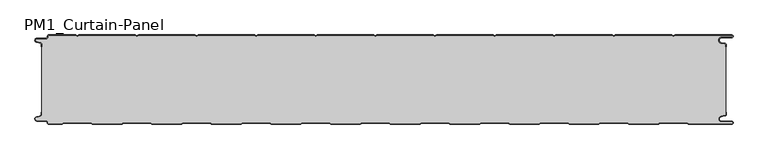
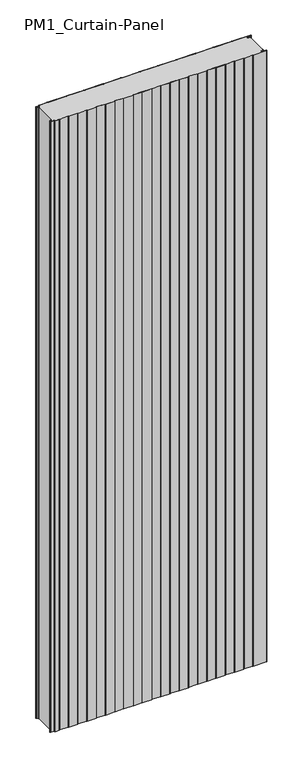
"""IFC4 building model written with IfcOpenShell, lengths in millimetres: plate geometry, PM1_Curtain-Panel : ACH_PM1_Stone-wool-Panel_150M."""

from ifc_helpers import new_model, si_unit, point, frame_2d, origin, origin_with_axes, place, context, project, spatial, polyline, circle_curve, trimmed, segment, composite_curve, outline, extrude, source, transform, mapped, element, save


def pm1_curtain_panel_94fae08d(model_context):
    return source(origin(), model_context, "Body", "SweptSolid", [
        extrude(outline(composite_curve([segment(trimmed(circle_curve(frame_2d((-577.0, -15.878557)), 2.0), [point((-575.0, -15.878557))], [point((-576.5500978, -13.9298169))], True, "CARTESIAN"), True, "CONTINUOUS"), segment(polyline([(-576.5500978, -13.9298169), (-582.7098239, -12.507732)]), True, "CONTINUOUS"), segment(trimmed(circle_curve(frame_2d((-581.9, -9.0)), 3.6), [point((-582.7098239, -12.507732))], [point((-581.9, -5.4))], False, "CARTESIAN"), True, "CONTINUOUS"), segment(polyline([(-581.9, -5.4), (-566.4, -5.4)]), True, "CONTINUOUS"), segment(trimmed(circle_curve(frame_2d((-566.4, -3.4)), 2.0), [point((-566.4, -5.4))], [point((-564.4, -3.4))], True, "CARTESIAN"), True, "CONTINUOUS"), segment(polyline([(-564.4, -3.4), (-564.4, -2.0)]), True, "CONTINUOUS"), segment(trimmed(circle_curve(frame_2d((-562.4, -2.0)), 2.0), [point((-564.4, -2.0))], [point((-562.4, 0.0))], False, "CARTESIAN"), True, "CONTINUOUS"), segment(polyline([(-562.4, 0.0), (-517.0999995, 0.0), (-514.4, -1.5588455), (-511.7000005, 0.0), (-417.0999995, 0.0), (-414.4, -1.5588455), (-411.7000005, 0.0), (-317.0999995, 0.0), (-314.4, -1.5588455), (-311.7000005, 0.0), (-217.0999995, 0.0), (-214.4, -1.5588455), (-211.7000005, 0.0), (-117.0999995, 0.0), (-114.4, -1.5588455), (-111.7000005, 0.0), (-17.0999995, 0.0), (-14.4, -1.5588455), (-11.7000005, 0.0), (82.9000005, 0.0), (85.6, -1.5588455), (88.2999995, 0.0), (182.9000005, 0.0), (185.6, -1.5588455), (188.2999995, 0.0), (282.9000005, 0.0), (285.6, -1.5588455), (288.2999995, 0.0), (382.9000005, 0.0), (385.6, -1.5588455), (388.2999995, 0.0), (482.9000005, 0.0), (485.6, -1.5588455), (488.2999995, 0.0), (583.1, 0.0)]), True, "CONTINUOUS"), segment(trimmed(circle_curve(frame_2d((583.1, -2.5)), 2.5), [point((583.1, 0.0))], [point((583.1, -5.0))], False, "CARTESIAN"), True, "CONTINUOUS"), segment(polyline([(583.1, -5.0), (566.1, -5.0)]), True, "CONTINUOUS"), segment(trimmed(circle_curve(frame_2d((566.1, -9.0)), 4.0), [point((566.1, -5.0))], [point((565.405407, -12.939231))], True, "CARTESIAN"), True, "CONTINUOUS"), segment(polyline([(565.405407, -12.939231), (571.8514855, -14.0758491)]), True, "CONTINUOUS"), segment(trimmed(circle_curve(frame_2d((571.4, -16.6363492)), 2.6), [point((571.8514855, -14.0758491))], [point((574.0, -16.6363492))], False, "CARTESIAN"), True, "CONTINUOUS"), segment(polyline([(574.0, -16.6363492), (574.0, -20.0), (573.2, -20.0), (573.2, -16.6363492)]), True, "CONTINUOUS"), segment(trimmed(circle_curve(frame_2d((571.4, -16.6363492)), 1.8), [point((573.2, -16.6363492))], [point((571.7125669, -14.8636953))], True, "CARTESIAN"), True, "CONTINUOUS"), segment(polyline([(571.7125669, -14.8636953), (565.2664884, -13.7270772)]), True, "CONTINUOUS"), segment(trimmed(circle_curve(frame_2d((566.1, -9.0)), 4.8), [point((565.2664884, -13.7270772))], [point((566.1, -4.2))], False, "CARTESIAN"), True, "CONTINUOUS"), segment(polyline([(566.1, -4.2), (583.1, -4.2)]), True, "CONTINUOUS"), segment(trimmed(circle_curve(frame_2d((583.1, -2.5)), 1.7), [point((583.1, -4.2))], [point((583.1, -0.8))], True, "CARTESIAN"), True, "CONTINUOUS"), segment(polyline([(583.1, -0.8), (488.5143588, -0.8), (485.6, -2.482606), (482.6856412, -0.8), (388.5143588, -0.8), (385.6, -2.482606), (382.6856412, -0.8), (288.5143588, -0.8), (285.6, -2.482606), (282.6856412, -0.8), (188.5143588, -0.8), (185.6, -2.482606), (182.6856412, -0.8), (88.5143588, -0.8), (85.6, -2.482606), (82.6856412, -0.8), (-11.4856412, -0.8), (-14.4, -2.482606), (-17.3143588, -0.8), (-111.4856412, -0.8), (-114.4, -2.482606), (-117.3143588, -0.8), (-211.4856412, -0.8), (-214.4, -2.482606), (-217.3143588, -0.8), (-311.4856412, -0.8), (-314.4, -2.482606), (-317.3143588, -0.8), (-411.4856412, -0.8), (-414.4, -2.482606), (-417.3143588, -0.8), (-511.4856412, -0.8), (-514.4, -2.482606), (-517.3143588, -0.8), (-562.4, -0.8)]), True, "CONTINUOUS"), segment(trimmed(circle_curve(frame_2d((-562.4, -2.0)), 1.2), [point((-562.4, -0.8))], [point((-563.6, -2.0))], True, "CARTESIAN"), True, "CONTINUOUS"), segment(polyline([(-563.6, -2.0), (-563.6, -3.4)]), True, "CONTINUOUS"), segment(trimmed(circle_curve(frame_2d((-566.4, -3.4)), 2.8), [point((-563.6, -3.4))], [point((-566.4, -6.2))], False, "CARTESIAN"), True, "CONTINUOUS"), segment(polyline([(-566.4, -6.2), (-581.9, -6.2)]), True, "CONTINUOUS"), segment(trimmed(circle_curve(frame_2d((-581.9, -9.0)), 2.8), [point((-581.9, -6.2))], [point((-582.529863, -11.7282362))], True, "CARTESIAN"), True, "CONTINUOUS"), segment(polyline([(-582.529863, -11.7282362), (-576.370137, -13.150321)]), True, "CONTINUOUS"), segment(trimmed(circle_curve(frame_2d((-577.0, -15.878557)), 2.8), [point((-576.370137, -13.150321))], [point((-574.2, -15.878557))], False, "CARTESIAN"), True, "CONTINUOUS"), segment(polyline([(-574.2, -15.878557), (-574.2, -20.0), (-575.0, -20.0), (-575.0, -15.878557)]), True, "CONTINUOUS")], self_intersect=False)), origin_with_axes(), (0.0, 0.0, 1.0), 3500.0),
        extrude(outline(composite_curve([segment(polyline([(-574.2, -134.121443), (-574.2, -15.8785573)]), True, "CONTINUOUS"), segment(trimmed(circle_curve(frame_2d((-577.0, -15.8785573)), 2.8), [point((-574.2, -15.8785573))], [point((-576.370137, -13.1503212))], True, "CARTESIAN"), True, "CONTINUOUS"), segment(polyline([(-576.370137, -13.1503212), (-582.5298631, -11.7282362)]), True, "CONTINUOUS"), segment(trimmed(circle_curve(frame_2d((-581.9, -9.0)), 2.8), [point((-582.5298631, -11.7282362))], [point((-581.9, -6.2))], False, "CARTESIAN"), True, "CONTINUOUS"), segment(polyline([(-581.9, -6.2), (-566.4000001, -6.2)]), True, "CONTINUOUS"), segment(trimmed(circle_curve(frame_2d((-566.4000001, -3.4)), 2.8), [point((-566.4000001, -6.2))], [point((-563.6000001, -3.4))], True, "CARTESIAN"), True, "CONTINUOUS"), segment(polyline([(-563.6000001, -3.4), (-563.6000001, -2.0)]), True, "CONTINUOUS"), segment(trimmed(circle_curve(frame_2d((-562.4000001, -2.0)), 1.2), [point((-563.6000001, -2.0))], [point((-562.4000001, -0.8))], False, "CARTESIAN"), True, "CONTINUOUS"), segment(polyline([(-562.4000001, -0.8), (-517.3143589, -0.8), (-514.4000001, -2.482606), (-511.4856412, -0.8), (-417.3143589, -0.8), (-414.4000001, -2.482606), (-411.4856412, -0.8), (-317.3143589, -0.8), (-314.4000001, -2.482606), (-311.4856412, -0.8), (-217.3143589, -0.8), (-214.4000001, -2.482606), (-211.4856412, -0.8), (-117.3143589, -0.8), (-114.4000001, -2.482606), (-111.4856412, -0.8), (-17.3143589, -0.8), (-14.4000001, -2.482606), (-11.4856412, -0.8), (82.6856411, -0.8), (85.5999999, -2.482606), (88.5143588, -0.8), (182.6856411, -0.8), (185.5999999, -2.482606), (188.5143588, -0.8), (282.6856411, -0.8), (285.5999999, -2.482606), (288.5143588, -0.8), (382.6856411, -0.8), (385.5999999, -2.482606), (388.5143588, -0.8), (482.6856411, -0.8), (485.6, -2.482606), (488.5143588, -0.8), (583.1, -0.8)]), True, "CONTINUOUS"), segment(trimmed(circle_curve(frame_2d((583.1, -2.5)), 1.7), [point((583.1, -0.8))], [point((583.1, -4.2))], False, "CARTESIAN"), True, "CONTINUOUS"), segment(polyline([(583.1, -4.2), (566.1, -4.2)]), True, "CONTINUOUS"), segment(trimmed(circle_curve(frame_2d((566.1, -9.0)), 4.8), [point((566.1, -4.2))], [point((565.2664883, -13.7270771))], True, "CARTESIAN"), True, "CONTINUOUS"), segment(polyline([(565.2664883, -13.7270771), (571.7125668, -14.8636953)]), True, "CONTINUOUS"), segment(trimmed(circle_curve(frame_2d((571.4, -16.6363492)), 1.8), [point((571.7125668, -14.8636953))], [point((573.2, -16.6363492))], False, "CARTESIAN"), True, "CONTINUOUS"), segment(polyline([(573.2, -16.6363492), (573.2, -133.363652)]), True, "CONTINUOUS"), segment(trimmed(circle_curve(frame_2d((571.4, -133.363652)), 1.8), [point((573.2, -133.363652))], [point((571.7125666, -135.1363059))], False, "CARTESIAN"), True, "CONTINUOUS"), segment(polyline([(571.7125666, -135.1363059), (565.266489, -136.272923)]), True, "CONTINUOUS"), segment(trimmed(circle_curve(frame_2d((566.1, -141.0000002)), 4.7999999), [point((565.266489, -136.272923))], [point((566.1, -145.8000001))], True, "CARTESIAN"), True, "CONTINUOUS"), segment(polyline([(566.1, -145.8000001), (583.1, -145.8000001)]), True, "CONTINUOUS"), segment(trimmed(circle_curve(frame_2d((583.1, -147.5)), 1.7), [point((583.1, -145.8000001))], [point((583.1, -149.2))], False, "CARTESIAN"), True, "CONTINUOUS"), segment(polyline([(583.1, -149.2), (510.8105122, -149.2), (508.2124346, -147.7), (462.9837184, -147.7), (460.3856408, -149.2), (410.8105122, -149.2), (408.2124346, -147.7), (362.9837184, -147.7), (360.3856408, -149.2), (310.8105122, -149.2), (308.2124346, -147.7), (262.9837184, -147.7), (260.3856408, -149.2), (210.8105122, -149.2), (208.2124346, -147.7), (162.9837184, -147.7), (160.3856408, -149.2), (110.8105122, -149.2), (108.2124346, -147.7), (62.9837184, -147.7), (60.3856408, -149.2), (10.8105122, -149.2), (8.2124346, -147.7), (-37.0162816, -147.7), (-39.6143592, -149.2), (-89.1894878, -149.2), (-91.7875654, -147.7), (-137.0162816, -147.7), (-139.6143592, -149.2), (-189.1894878, -149.2), (-191.7875654, -147.7), (-237.0162816, -147.7), (-239.6143592, -149.2), (-289.1894878, -149.2), (-291.7875654, -147.7), (-337.0162816, -147.7), (-339.6143592, -149.2), (-389.1894878, -149.2), (-391.7875654, -147.7), (-437.0162816, -147.7), (-439.6143592, -149.2), (-489.1894878, -149.2), (-491.7875654, -147.7), (-537.0162816, -147.7), (-539.6143592, -149.2), (-562.4, -149.2)]), True, "CONTINUOUS"), segment(trimmed(circle_curve(frame_2d((-562.4, -148.0)), 1.2), [point((-562.4, -149.2))], [point((-563.6, -148.0))], False, "CARTESIAN"), True, "CONTINUOUS"), segment(polyline([(-563.6, -148.0), (-563.6, -146.5999998)]), True, "CONTINUOUS"), segment(trimmed(circle_curve(frame_2d((-566.4, -146.5999998)), 2.8), [point((-563.6, -146.5999998))], [point((-566.4, -143.7999998))], True, "CARTESIAN"), True, "CONTINUOUS"), segment(polyline([(-566.4, -143.7999998), (-581.9, -143.7999998)]), True, "CONTINUOUS"), segment(trimmed(circle_curve(frame_2d((-581.9, -141.0)), 2.7999998), [point((-581.9, -143.7999998))], [point((-582.529863, -138.271764))], False, "CARTESIAN"), True, "CONTINUOUS"), segment(polyline([(-582.529863, -138.271764), (-576.370137, -136.8496792)]), True, "CONTINUOUS"), segment(trimmed(circle_curve(frame_2d((-577.0, -134.121443)), 2.8), [point((-576.370137, -136.8496792))], [point((-574.2, -134.121443))], True, "CARTESIAN"), True, "CONTINUOUS")], self_intersect=False)), origin_with_axes(), (0.0, 0.0, 1.0), 3500.0),
        extrude(outline(composite_curve([segment(trimmed(circle_curve(frame_2d((-562.4, -148.0)), 2.0), [point((-562.4, -150.0))], [point((-564.4, -148.0))], False, "CARTESIAN"), True, "CONTINUOUS"), segment(polyline([(-564.4, -148.0), (-564.4, -146.6)]), True, "CONTINUOUS"), segment(trimmed(circle_curve(frame_2d((-566.4, -146.6)), 2.0), [point((-564.4, -146.6))], [point((-566.4, -144.6))], True, "CARTESIAN"), True, "CONTINUOUS"), segment(polyline([(-566.4, -144.6), (-581.9, -144.6)]), True, "CONTINUOUS"), segment(trimmed(circle_curve(frame_2d((-581.9, -141.0)), 3.6), [point((-581.9, -144.6))], [point((-582.7098239, -137.4922678))], False, "CARTESIAN"), True, "CONTINUOUS"), segment(polyline([(-582.7098239, -137.4922678), (-576.5500979, -136.070183)]), True, "CONTINUOUS"), segment(trimmed(circle_curve(frame_2d((-577.0, -134.121443)), 2.0), [point((-576.5500979, -136.070183))], [point((-575.0, -134.121443))], True, "CARTESIAN"), True, "CONTINUOUS"), segment(polyline([(-575.0, -134.121443), (-575.0, -130.0), (-574.2, -130.0), (-574.2, -134.121443)]), True, "CONTINUOUS"), segment(trimmed(circle_curve(frame_2d((-577.0, -134.121443)), 2.8), [point((-574.2, -134.121443))], [point((-576.370137, -136.8496792))], False, "CARTESIAN"), True, "CONTINUOUS"), segment(polyline([(-576.370137, -136.8496792), (-582.529863, -138.271764)]), True, "CONTINUOUS"), segment(trimmed(circle_curve(frame_2d((-581.9, -141.0)), 2.8), [point((-582.529863, -138.271764))], [point((-581.9, -143.8))], True, "CARTESIAN"), True, "CONTINUOUS"), segment(polyline([(-581.9, -143.8), (-566.4, -143.8)]), True, "CONTINUOUS"), segment(trimmed(circle_curve(frame_2d((-566.4, -146.6)), 2.8), [point((-566.4, -143.8))], [point((-563.6, -146.6))], False, "CARTESIAN"), True, "CONTINUOUS"), segment(polyline([(-563.6, -146.6), (-563.6, -148.0)]), True, "CONTINUOUS"), segment(trimmed(circle_curve(frame_2d((-562.4, -148.0)), 1.2), [point((-563.6, -148.0))], [point((-562.4, -149.2))], True, "CARTESIAN"), True, "CONTINUOUS"), segment(polyline([(-562.4, -149.2), (-539.6143592, -149.2), (-537.0162816, -147.7), (-491.7875654, -147.7), (-489.1894878, -149.2), (-439.6143592, -149.2), (-437.0162816, -147.7), (-391.7875654, -147.7), (-389.1894878, -149.2), (-339.6143592, -149.2), (-337.0162816, -147.7), (-291.7875654, -147.7), (-289.1894878, -149.2), (-239.6143592, -149.2), (-237.0162816, -147.7), (-191.7875654, -147.7), (-189.1894878, -149.2), (-139.6143592, -149.2), (-137.0162816, -147.7), (-91.7875654, -147.7), (-89.1894878, -149.2), (-39.6143592, -149.2), (-37.0162816, -147.7), (8.2124346, -147.7), (10.8105122, -149.2), (60.3856408, -149.2), (62.9837184, -147.7), (108.2124346, -147.7), (110.8105122, -149.2), (160.3856408, -149.2), (162.9837184, -147.7), (208.2124346, -147.7), (210.8105122, -149.2), (260.3856408, -149.2), (262.9837184, -147.7), (308.2124346, -147.7), (310.8105122, -149.2), (360.3856408, -149.2), (362.9837184, -147.7), (408.2124346, -147.7), (410.8105122, -149.2), (460.3856408, -149.2), (462.9837184, -147.7), (508.2124346, -147.7), (510.8105122, -149.2), (583.1, -149.2)]), True, "CONTINUOUS"), segment(trimmed(circle_curve(frame_2d((583.1, -147.5)), 1.7), [point((583.1, -149.2))], [point((583.1, -145.8))], True, "CARTESIAN"), True, "CONTINUOUS"), segment(polyline([(583.1, -145.8), (566.1, -145.8)]), True, "CONTINUOUS"), segment(trimmed(circle_curve(frame_2d((566.1, -141.0)), 4.8), [point((566.1, -145.8))], [point((565.266489, -136.2729227))], False, "CARTESIAN"), True, "CONTINUOUS"), segment(polyline([(565.266489, -136.2729227), (571.7125666, -135.1363058)]), True, "CONTINUOUS"), segment(trimmed(circle_curve(frame_2d((571.4, -133.363652)), 1.8), [point((571.7125666, -135.1363058))], [point((573.2, -133.363652))], True, "CARTESIAN"), True, "CONTINUOUS"), segment(polyline([(573.2, -133.363652), (573.2, -130.0), (574.0, -130.0), (574.0, -133.363652)]), True, "CONTINUOUS"), segment(trimmed(circle_curve(frame_2d((571.4, -133.363652)), 2.6), [point((574.0, -133.363652))], [point((571.8514851, -135.9241522))], False, "CARTESIAN"), True, "CONTINUOUS"), segment(polyline([(571.8514851, -135.9241522), (565.4054075, -137.0607691)]), True, "CONTINUOUS"), segment(trimmed(circle_curve(frame_2d((566.1, -141.0)), 4.0), [point((565.4054075, -137.0607691))], [point((566.1, -145.0))], True, "CARTESIAN"), True, "CONTINUOUS"), segment(polyline([(566.1, -145.0), (583.1, -145.0)]), True, "CONTINUOUS"), segment(trimmed(circle_curve(frame_2d((583.1, -147.5)), 2.5), [point((583.1, -145.0))], [point((583.1, -150.0))], False, "CARTESIAN"), True, "CONTINUOUS"), segment(polyline([(583.1, -150.0), (510.5961529, -150.0), (507.9980753, -148.5), (463.1980777, -148.5), (460.6000001, -150.0), (410.5961529, -150.0), (407.9980753, -148.5), (363.1980777, -148.5), (360.6000001, -150.0), (310.5961529, -150.0), (307.9980753, -148.5), (263.1980777, -148.5), (260.6000001, -150.0), (210.5961529, -150.0), (207.9980753, -148.5), (163.1980777, -148.5), (160.6000001, -150.0), (110.5961529, -150.0), (107.9980753, -148.5), (63.1980777, -148.5), (60.6000001, -150.0), (10.5961529, -150.0), (7.9980753, -148.5), (-36.8019223, -148.5), (-39.3999999, -150.0), (-89.4038471, -150.0), (-92.0019247, -148.5), (-136.8019223, -148.5), (-139.3999999, -150.0), (-189.4038471, -150.0), (-192.0019247, -148.5), (-236.8019223, -148.5), (-239.3999999, -150.0), (-289.4038471, -150.0), (-292.0019247, -148.5), (-336.8019223, -148.5), (-339.3999999, -150.0), (-389.4038471, -150.0), (-392.0019247, -148.5), (-436.8019223, -148.5), (-439.3999999, -150.0), (-489.4038471, -150.0), (-492.0019247, -148.5), (-536.8019223, -148.5), (-539.3999999, -150.0), (-562.4, -150.0)]), True, "CONTINUOUS")], self_intersect=False)), origin_with_axes(), (0.0, 0.0, 1.0), 3500.0),
    ])


if __name__ == "__main__":
    model = new_model("IFC4")
    model_context = context("Model", 3, world=origin())
    ifc_project = project(units=[si_unit("LENGTHUNIT", "METRE", prefix="MILLI")], contexts=[model_context])
    site = spatial("IfcSite", under=ifc_project)
    building = spatial("IfcBuilding", under=site)
    placement = place(None, origin())
    pm1_curtain_panel_shape = pm1_curtain_panel_94fae08d(model_context)
    element("IfcPlate", 1, ObjectType="PM1_Curtain-Panel : ACH_PM1_Stone-wool-Panel_150M", at=placement, inside=building, context=model_context, shape_type="MappedRepresentation", body=[
        mapped(pm1_curtain_panel_shape, transform((0.0, 0.0, 0.0), x_axis=(1.0, 0.0, 0.0), y_axis=(0.0, 1.0, 0.0), z_axis=(0.0, 0.0, 1.0))),
    ])
    save(model, "model.ifc")
